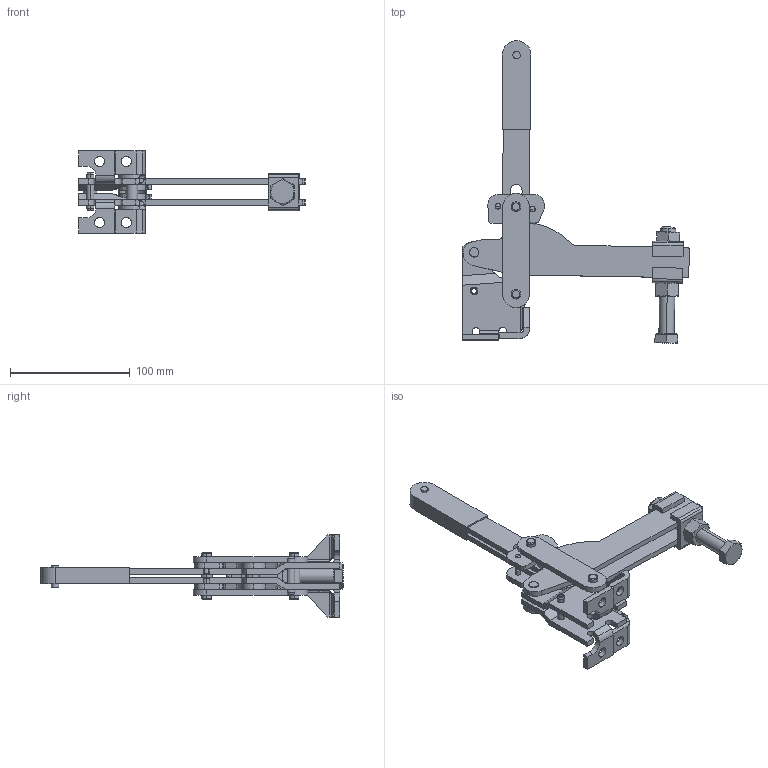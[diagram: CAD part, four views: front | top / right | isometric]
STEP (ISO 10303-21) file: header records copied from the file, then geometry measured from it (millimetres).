
FILE_DESCRIPTION((''),'2;1');
FILE_NAME('C:\1a1-lapeer-mfg\v800\step\CAV-800.stp','2006-01-19T19:47:52',('rtaylor'),(''),'Autodesk Inventor 9','Autodesk Inventor 9','');
FILE_SCHEMA(('AUTOMOTIVE_DESIGN { 1 0 10303 214 1 1 1 1 }'));
Length unit declared in the file: inch
Products named in the file (18): CAV-800; 120004L; 120004R; 150019; 150062; 150063; 130024; 102014; 150010; N-470078; 170078; 170074-CT; 171011; 170073-CT; 110013RL; 180006; 100005; 150085
Assembly tree (27 placements, depth 3):
  CAV-800
    120004L
    120004R
    150019  x2
    150062
    150063  x2
    130024  x2
    102014
    150010
    N-470078
      170078
      170074-CT
      171011  x2
      170073-CT
    110013RL  x2
    180006  x2
    100005  x2
    150085  x4
Bounding box: 188.97 x 252.29 x 68.48 mm (x, y, z)
Volume: 191356.5 mm3; surface area: 113382.1 mm2
Topology: 26 solids, 26 shells, 571 faces, 1432 edges, 930 vertices
Faces by surface type: plane 208, cylinder 204, bspline 79, cone 56, sphere 16, torus 8
Entity records: 14057 total; most frequent: CARTESIAN_POINT 3835, DIRECTION 2067, ORIENTED_EDGE 2044, EDGE_CURVE 1022, AXIS2_PLACEMENT_3D 779, VERTEX_POINT 659, VECTOR 509, LINE 509
